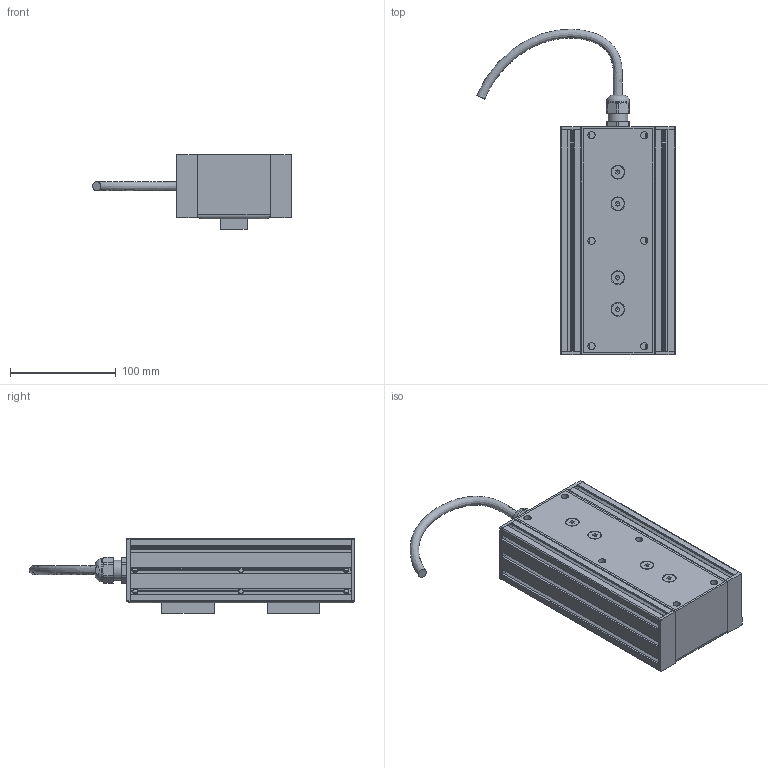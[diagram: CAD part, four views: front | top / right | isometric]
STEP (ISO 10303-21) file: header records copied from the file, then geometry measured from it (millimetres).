
FILE_DESCRIPTION(/* description */ (''),/* implementation_level */ '2;1');
FILE_NAME(/* name */ 'ELFQ-FA-PR102.step',/* time_stamp */ '2024-05-23T14:37:45+09:00',/* author */ (''),/* organization */ (''),/* preprocessor_version */ 'ST-DEVELOPER v20',/* originating_system */ 'Autodesk Translation Framework v13.14.0.145',/* authorisation */ '');
FILE_SCHEMA (('AUTOMOTIVE_DESIGN { 1 0 10303 214 3 1 1 }'));
Length unit declared in the file: millimetre
Products named in the file (44): 19103-1B(ELFQ-FA-PR102); 19103-1B-01; LBNR5; LBNR5_1; LBNR5_2; LBNR5_3; LBNR5_4; LBNR5_5; LBNR5_6; LBNR5_7; LBNR5_8; LBNR5_9; LBNR5_10; LBNR5_11; LBNR5_12; BOX-SFB5-15; BOX-SFB5-15 v2(ミラー); SKINTOP ST PG 11      Art. Nr. 53015020(F=4); SKINTOP ST PG 11      Art. Nr. 53015020(F=4)_1; SKINTOP GMP-GL PG 11      Art. Nr. 53019020; SKINTOP GMP-GL PG 11      Art. Nr. 53019020_1; UL2464-OHFR-PCVV-19AWGx4C; 18995-3-02; SFB6-15; 18995-3-03; 18995-3-05; HFC5-2060-S; HFC5-2060-S_1; HFC5-2060-S v1(ミラー); HFC5-2060-S_2; SSH-M5-10; SSH-M5-10_1; SSH-M5-10_2; SSH-M5-10_3; SSH-M5-10_4; SSH-M5-10_5; SSH-M5-10_6; 18995-3-05 v2(ミラー); HFC5-2060-S v1(ミラー)_1; HFC5-2060-S(ミラー)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
Assembly tree (74 placements, depth 4):
  19103-1B(ELFQ-FA-PR102)
    19103-1B-01
      LBNR5
        LBNR5_12
      LBNR5_1
        LBNR5_12
      LBNR5_2
        LBNR5_12
      LBNR5_3
        LBNR5_12
      LBNR5_4
        LBNR5_12
      LBNR5_5
        LBNR5_12
      LBNR5_6
        LBNR5_12
      LBNR5_7
        LBNR5_12
      LBNR5_8
        LBNR5_12
      LBNR5_9
        LBNR5_12
      LBNR5_10
        LBNR5_12
      LBNR5_11
        LBNR5_12
      BOX-SFB5-15  x4
      BOX-SFB5-15 v2(ミラー)  x4
      SKINTOP ST PG 11      Art. Nr. 53015020(F=4)
        SKINTOP ST PG 11      Art. Nr. 53015020(F=4)_1
      SKINTOP GMP-GL PG 11      Art. Nr. 53019020
        SKINTOP GMP-GL PG 11      Art. Nr. 53019020_1
      UL2464-OHFR-PCVV-19AWGx4C
    18995-3-02
      SFB6-15  x4
      18995-3-03  x2
    18995-3-05
      HFC5-2060-S
        HFC5-2060-S_1
      HFC5-2060-S v1(ミラー)
        HFC5-2060-S_2
      SSH-M5-10
        SSH-M5-10_6
      SSH-M5-10_1
        SSH-M5-10_6
      SSH-M5-10_2
        SSH-M5-10_6
      SSH-M5-10_3
        SSH-M5-10_6
      SSH-M5-10_4
        SSH-M5-10_6
      SSH-M5-10_5
        SSH-M5-10_6
    18995-3-05 v2(ミラー)
      HFC5-2060-S v1(ミラー)_1
        HFC5-2060-S(ミラー)
      HFC5-2060-S v1(ミラー)(ミラー)
        HFC5-2060-S(ミラー) (1)
      SSH-M5-10 v1(ミラー)  x6
        SSH-M5-10(ミラー)
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Bounding box: 188.37 x 308.53 x 71 mm (x, y, z)
Volume: 602010.3 mm3; surface area: 381409.3 mm2
Topology: 19 solids, 966 shells, 1814 faces, 6586 edges, 5623 vertices
Faces by surface type: plane 1075, cylinder 511, cone 221, torus 5, bspline 2
Full cylindrical faces by diameter (mm): 1.5 x12, 4 x1, 4.134 x12, 4.2 x18, 4.234 x8, 5 x32, 5.035 x4, 6 x24, 6.779 x6, 7 x4, 8.5 x1, 9 x12, 10 x20, 12 x4, 17.4 x1, 17.67 x2, 18.6 x2, 19 x1, 22 x1, 26 x1
Entity records: 55364 total; most frequent: CARTESIAN_POINT 13889, DIRECTION 8395, ORIENTED_EDGE 6588, EDGE_CURVE 4543, VERTEX_POINT 3817, AXIS2_PLACEMENT_3D 2800, LINE 2795, VECTOR 2795
